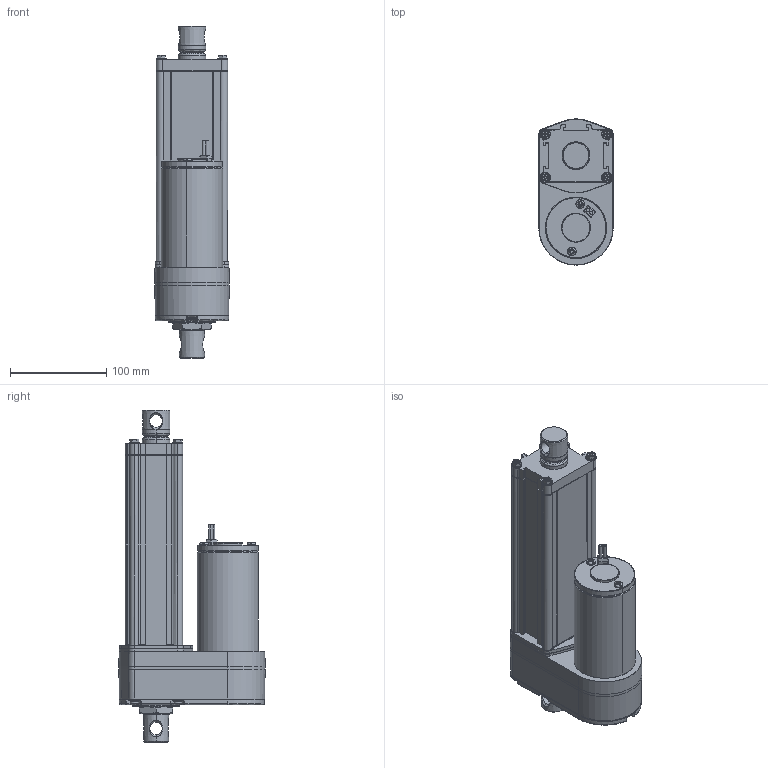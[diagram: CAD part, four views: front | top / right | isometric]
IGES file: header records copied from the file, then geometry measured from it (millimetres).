
Start section: SolidWorks IGES file using analytic representation for surfaces
Global section: file name: C:\Users\lynn\Desktop\工作用資料夾\3D CAD Models Community\0-給產品部\ID12\新增IP69K\ID12-B-100-IP69K.IGS; native system: SolidWorks 2020; preprocessor: SolidWorks 2020; author: lynn; date: 221019.170518; units: millimetre
Bounding box: 77.3 x 151.8 x 344.5 mm (x, y, z)
Surface area: 205849.8 mm2 (no closed solid volume)
Topology: 0 solids, 0 shells, 1787 faces, 17099 edges, 17071 vertices
Faces by surface type: bspline 1153, revolution 634
